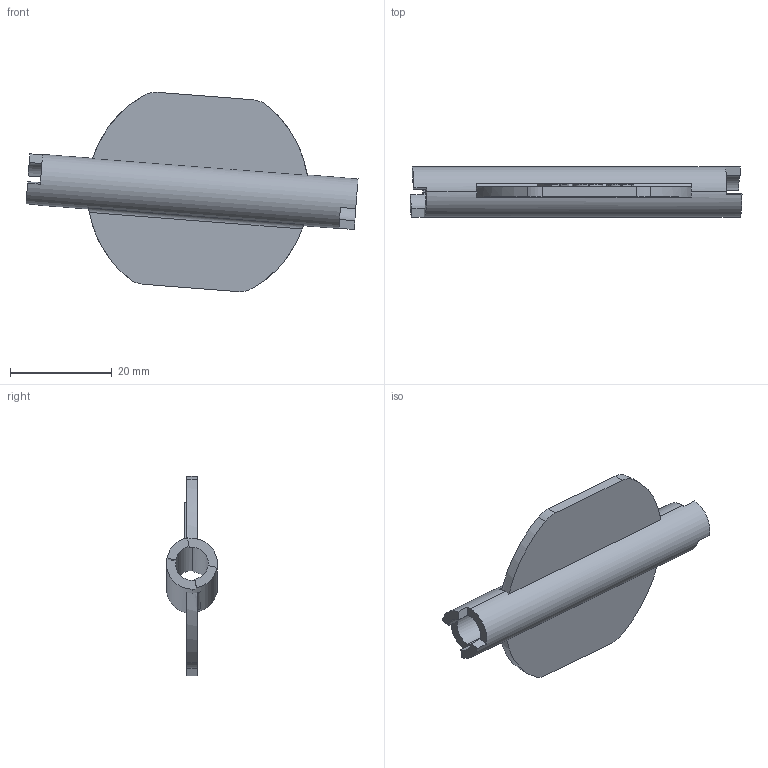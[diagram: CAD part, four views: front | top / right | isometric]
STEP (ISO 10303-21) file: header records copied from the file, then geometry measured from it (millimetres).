
FILE_DESCRIPTION((''),'2;1');
FILE_NAME('0000237121_PRT','2025-11-12T18:36:10',('Wyndorps'),(''),'CREO PARAMETRIC BY PTC INC, 2025010','CREO PARAMETRIC BY PTC INC, 2025010','');
FILE_SCHEMA(('CONFIG_CONTROL_DESIGN'));
Length unit declared in the file: millimetre
Products named in the file (1): 0000237121_PRT
Bounding box: 65.22 x 10 x 39.14 mm (x, y, z)
Volume: 4795.6 mm3; surface area: 5386.4 mm2
Topology: 1 solids, 1 shells, 94 faces, 264 edges, 176 vertices
Faces by surface type: plane 51, extrusion 29, cylinder 14
Entity records: 3303 total; most frequent: CARTESIAN_POINT 927, ORIENTED_EDGE 528, DIRECTION 393, EDGE_CURVE 264, VECTOR 183, VERTEX_POINT 176, LINE 154, AXIS2_PLACEMENT_3D 105
